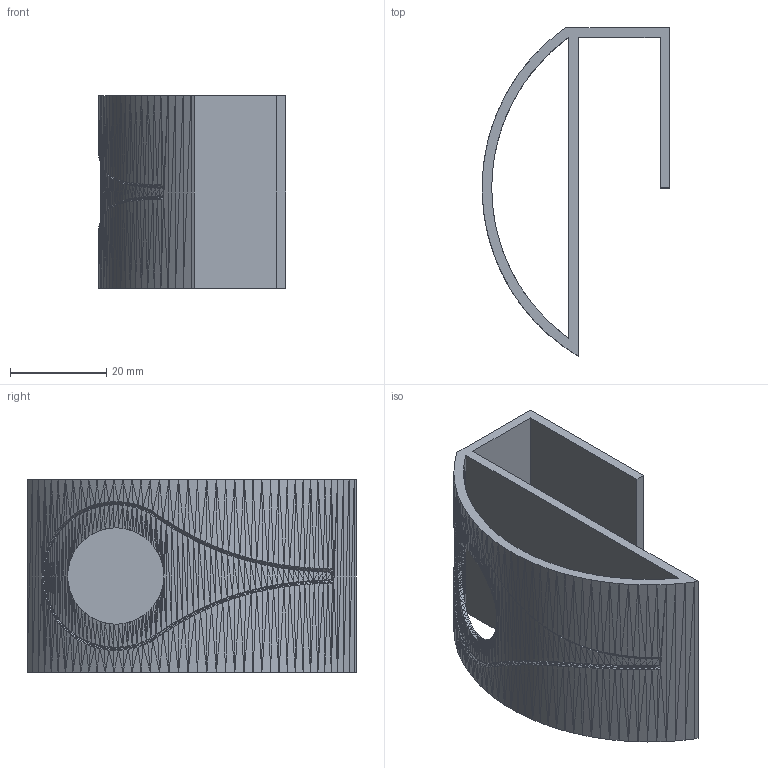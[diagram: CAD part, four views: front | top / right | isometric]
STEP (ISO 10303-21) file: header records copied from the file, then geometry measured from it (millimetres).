
FILE_DESCRIPTION(/* description */ (''),/* implementation_level */ '2;1');
FILE_NAME(/* name */ '/Volumes/3DP Files/3D Published Print/Kitchen Cabinet Door Towel Hook/Kitchen cabinet door towel hook v1.step',/* time_stamp */ '2022-09-14T16:28:01-04:00',/* author */ (''),/* organization */ (''),/* preprocessor_version */ 'ST-DEVELOPER v19',/* originating_system */ 'Autodesk Translation Framework v11.7.0.108',/* authorisation */ '');
FILE_SCHEMA (('AUTOMOTIVE_DESIGN { 1 0 10303 214 3 1 1 }'));
Products named in the file (1): Kitchen cabinet door towel hook
Bounding box: 39 x 68.29 x 40 mm (x, y, z)
Volume: 14097.8 mm3; surface area: 16036.2 mm2
Topology: 2 solids, 2 shells, 2906 faces, 4448 edges, 1542 vertices
Faces by surface type: plane 2906
Entity records: 57516 total; most frequent: DIRECTION 10262, CARTESIAN_POINT 8897, ORIENTED_EDGE 8896, LINE 4448, VECTOR 4448, EDGE_CURVE 4448, EDGE_LOOP 2908, AXIS2_PLACEMENT_3D 2907
